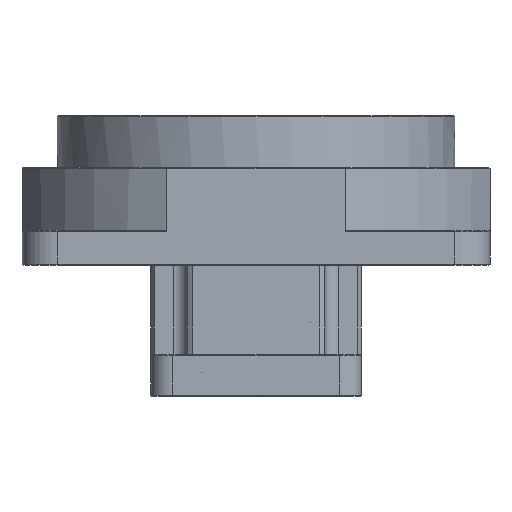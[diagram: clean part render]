
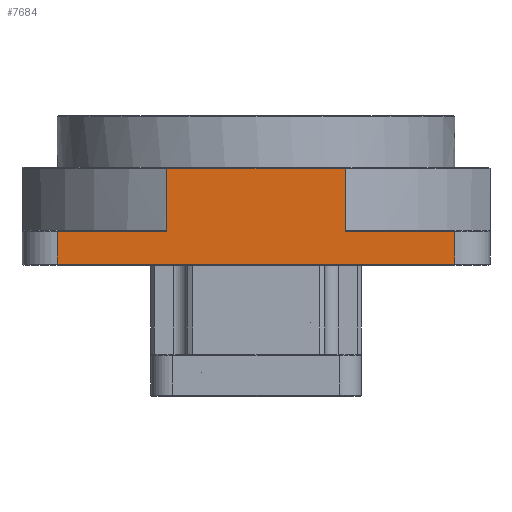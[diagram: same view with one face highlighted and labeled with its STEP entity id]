
A CAD part, left-side view. The second image highlights one B-rep face of the part: STEP entity #7684.
In plain terms, the highlighted planar face has unit normal (-1, 0, 0).
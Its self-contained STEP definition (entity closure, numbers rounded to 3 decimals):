
#6036=CARTESIAN_POINT('',(-100.0,-38.066,41.5));
#6037=VERTEX_POINT('',#6036);
#6286=CARTESIAN_POINT('',(-100.0,38.066,41.5));
#6287=VERTEX_POINT('',#6286);
#6378=CARTESIAN_POINT('',(-100.0,38.066,41.5));
#6379=DIRECTION('',(0.0,-1.0,0.0));
#6380=VECTOR('',#6379,76.131);
#6381=LINE('',#6378,#6380);
#6382=EDGE_CURVE('',#6287,#6037,#6381,.T.);
#6419=CARTESIAN_POINT('',(-100.0,38.066,14.5));
#6420=VERTEX_POINT('',#6419);
#6428=CARTESIAN_POINT('',(-100.0,38.066,14.5));
#6429=DIRECTION('',(0.0,0.0,1.0));
#6430=VECTOR('',#6429,27.0);
#6431=LINE('',#6428,#6430);
#6432=EDGE_CURVE('',#6420,#6287,#6431,.T.);
#6992=CARTESIAN_POINT('',(-100.,-85.,0.5));
#6993=VERTEX_POINT('',#6992);
#7024=CARTESIAN_POINT('',(-100.,85.0,0.5));
#7025=VERTEX_POINT('',#7024);
#7041=CARTESIAN_POINT('',(-100.,-85.,0.5));
#7042=DIRECTION('',(0.0,1.0,0.0));
#7043=VECTOR('',#7042,170.);
#7044=LINE('',#7041,#7043);
#7045=EDGE_CURVE('',#6993,#7025,#7044,.T.);
#7601=CARTESIAN_POINT('',(-100.,-38.066,14.5));
#7602=VERTEX_POINT('',#7601);
#7603=CARTESIAN_POINT('',(-100.0,-38.066,41.5));
#7604=DIRECTION('',(0.0,0.0,-1.0));
#7605=VECTOR('',#7604,27.0);
#7606=LINE('',#7603,#7605);
#7607=EDGE_CURVE('',#6037,#7602,#7606,.T.);
#7645=CARTESIAN_POINT('',(-100.,100.,0.0));
#7646=DIRECTION('',(-1.0,0.0,0.0));
#7647=DIRECTION('',(0.0,-1.0,0.0));
#7648=AXIS2_PLACEMENT_3D('',#7645,#7646,#7647);
#7649=PLANE('',#7648);
#7650=ORIENTED_EDGE('',*,*,#7045,.F.);
#7651=CARTESIAN_POINT('',(-100.,-85.,14.5));
#7652=VERTEX_POINT('',#7651);
#7653=CARTESIAN_POINT('',(-100.,-85.,14.5));
#7654=DIRECTION('',(0.0,0.0,-1.0));
#7655=VECTOR('',#7654,14.0);
#7656=LINE('',#7653,#7655);
#7657=EDGE_CURVE('',#7652,#6993,#7656,.T.);
#7658=ORIENTED_EDGE('',*,*,#7657,.F.);
#7659=CARTESIAN_POINT('',(-100.,-38.066,14.5));
#7660=DIRECTION('',(0.0,-1.0,0.0));
#7661=VECTOR('',#7660,46.934);
#7662=LINE('',#7659,#7661);
#7663=EDGE_CURVE('',#7602,#7652,#7662,.T.);
#7664=ORIENTED_EDGE('',*,*,#7663,.F.);
#7665=ORIENTED_EDGE('',*,*,#7607,.F.);
#7666=ORIENTED_EDGE('',*,*,#6382,.F.);
#7667=ORIENTED_EDGE('',*,*,#6432,.F.);
#7668=CARTESIAN_POINT('',(-100.,85.0,14.5));
#7669=VERTEX_POINT('',#7668);
#7670=CARTESIAN_POINT('',(-100.0,85.0,14.5));
#7671=DIRECTION('',(0.0,-1.0,0.0));
#7672=VECTOR('',#7671,46.934);
#7673=LINE('',#7670,#7672);
#7674=EDGE_CURVE('',#7669,#6420,#7673,.T.);
#7675=ORIENTED_EDGE('',*,*,#7674,.F.);
#7676=CARTESIAN_POINT('',(-100.,85.0,0.5));
#7677=DIRECTION('',(0.0,0.0,1.0));
#7678=VECTOR('',#7677,14.0);
#7679=LINE('',#7676,#7678);
#7680=EDGE_CURVE('',#7025,#7669,#7679,.T.);
#7681=ORIENTED_EDGE('',*,*,#7680,.F.);
#7682=EDGE_LOOP('',(#7650,#7658,#7664,#7665,#7666,#7667,#7675,#7681));
#7683=FACE_OUTER_BOUND('',#7682,.T.);
#7684=ADVANCED_FACE('',(#7683),#7649,.T.);
